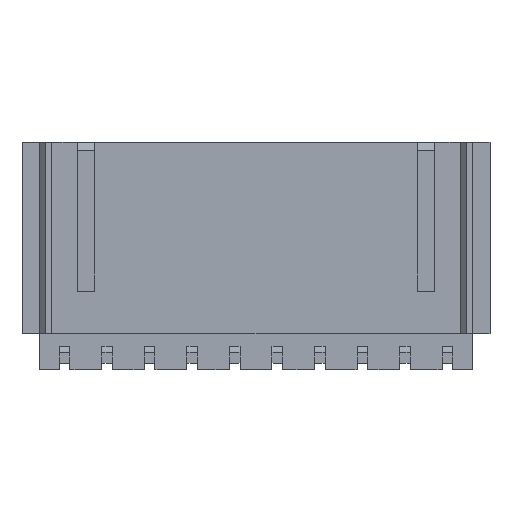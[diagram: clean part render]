
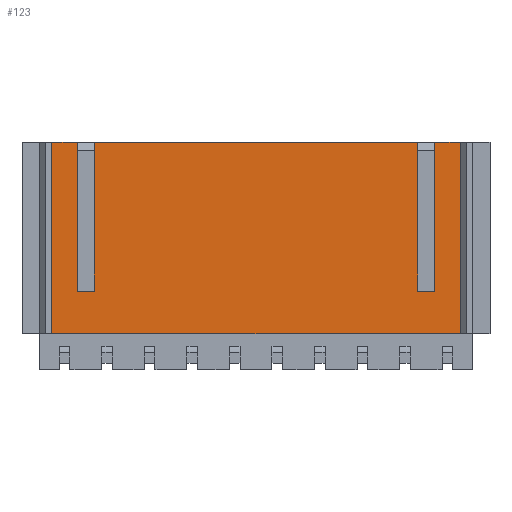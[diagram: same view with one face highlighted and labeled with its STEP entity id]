
A CAD part, front view. The second image highlights one B-rep face of the part: STEP entity #123.
In plain terms, the highlighted planar face has unit normal (0, -1, 0).
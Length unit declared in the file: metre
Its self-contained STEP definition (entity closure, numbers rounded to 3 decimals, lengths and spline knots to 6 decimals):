
#123 = ADVANCED_FACE( '', ( #453 ), #454, .T. );
#453 = FACE_OUTER_BOUND( '', #966, .T. );
#454 = PLANE( '', #967 );
#966 = EDGE_LOOP( '', ( #1918, #1919, #1920, #1921, #1922, #1923, #1924, #1925, #1926, #1927, #1928, #1929 ) );
#967 = AXIS2_PLACEMENT_3D( '', #1930, #1931, #1932 );
#1918 = ORIENTED_EDGE( '', *, *, #3721, .F. );
#1919 = ORIENTED_EDGE( '', *, *, #3722, .F. );
#1920 = ORIENTED_EDGE( '', *, *, #3423, .F. );
#1921 = ORIENTED_EDGE( '', *, *, #3430, .T. );
#1922 = ORIENTED_EDGE( '', *, *, #3723, .T. );
#1923 = ORIENTED_EDGE( '', *, *, #3724, .F. );
#1924 = ORIENTED_EDGE( '', *, *, #3725, .T. );
#1925 = ORIENTED_EDGE( '', *, *, #3726, .F. );
#1926 = ORIENTED_EDGE( '', *, *, #3727, .F. );
#1927 = ORIENTED_EDGE( '', *, *, #3728, .F. );
#1928 = ORIENTED_EDGE( '', *, *, #3585, .T. );
#1929 = ORIENTED_EDGE( '', *, *, #3729, .F. );
#1930 = CARTESIAN_POINT( '', ( -0.01397, -0.00254, -0.005715 ) );
#1931 = DIRECTION( '', ( 0., -1., 0. ) );
#1932 = DIRECTION( '', ( 0., 0., -1. ) );
#3423 = EDGE_CURVE( '', #4097, #4095, #4099, .T. );
#3430 = EDGE_CURVE( '', #4097, #4111, #4113, .T. );
#3585 = EDGE_CURVE( '', #4410, #4408, #4411, .T. );
#3721 = EDGE_CURVE( '', #4646, #4647, #4648, .T. );
#3722 = EDGE_CURVE( '', #4095, #4646, #4649, .T. );
#3723 = EDGE_CURVE( '', #4111, #4650, #4651, .T. );
#3724 = EDGE_CURVE( '', #4652, #4650, #4653, .T. );
#3725 = EDGE_CURVE( '', #4652, #4654, #4655, .T. );
#3726 = EDGE_CURVE( '', #4656, #4654, #4657, .T. );
#3727 = EDGE_CURVE( '', #4658, #4656, #4659, .T. );
#3728 = EDGE_CURVE( '', #4410, #4658, #4660, .T. );
#3729 = EDGE_CURVE( '', #4647, #4408, #4661, .T. );
#4095 = VERTEX_POINT( '', #5199 );
#4097 = VERTEX_POINT( '', #5202 );
#4099 = LINE( '', #5205, #5206 );
#4111 = VERTEX_POINT( '', #5223 );
#4113 = LINE( '', #5226, #5227 );
#4408 = VERTEX_POINT( '', #5661 );
#4410 = VERTEX_POINT( '', #5664 );
#4411 = LINE( '', #5665, #5666 );
#4646 = VERTEX_POINT( '', #6026 );
#4647 = VERTEX_POINT( '', #6027 );
#4648 = LINE( '', #6028, #6029 );
#4649 = LINE( '', #6030, #6031 );
#4650 = VERTEX_POINT( '', #6032 );
#4651 = LINE( '', #6033, #6034 );
#4652 = VERTEX_POINT( '', #6035 );
#4653 = LINE( '', #6036, #6037 );
#4654 = VERTEX_POINT( '', #6038 );
#4655 = LINE( '', #6039, #6040 );
#4656 = VERTEX_POINT( '', #6041 );
#4657 = LINE( '', #6042, #6043 );
#4658 = VERTEX_POINT( '', #6044 );
#4659 = LINE( '', #6045, #6046 );
#4660 = LINE( '', #6047, #6048 );
#4661 = LINE( '', #6049, #6050 );
#5199 = CARTESIAN_POINT( '', ( -0.012192, -0.00254, 0.005715 ) );
#5202 = CARTESIAN_POINT( '', ( -0.012192, -0.00254, -0.005715 ) );
#5205 = CARTESIAN_POINT( '', ( -0.012192, -0.00254, -0.005715 ) );
#5206 = VECTOR( '', #6919, 1. );
#5223 = CARTESIAN_POINT( '', ( 0.012192, -0.00254, -0.005715 ) );
#5226 = CARTESIAN_POINT( '', ( -0.012192, -0.00254, -0.005715 ) );
#5227 = VECTOR( '', #6926, 1. );
#5661 = CARTESIAN_POINT( '', ( -0.009652, -0.00254, -0.003175 ) );
#5664 = CARTESIAN_POINT( '', ( -0.009652, -0.00254, 0.005715 ) );
#5665 = CARTESIAN_POINT( '', ( -0.009652, -0.00254, 0.005715 ) );
#5666 = VECTOR( '', #7109, 1. );
#6026 = CARTESIAN_POINT( '', ( -0.010668, -0.00254, 0.005715 ) );
#6027 = CARTESIAN_POINT( '', ( -0.010668, -0.00254, -0.003175 ) );
#6028 = CARTESIAN_POINT( '', ( -0.010668, -0.00254, 0.005715 ) );
#6029 = VECTOR( '', #7265, 1. );
#6030 = CARTESIAN_POINT( '', ( -0.012192, -0.00254, 0.005715 ) );
#6031 = VECTOR( '', #7266, 1. );
#6032 = CARTESIAN_POINT( '', ( 0.012192, -0.00254, 0.005715 ) );
#6033 = CARTESIAN_POINT( '', ( 0.012192, -0.00254, -0.005715 ) );
#6034 = VECTOR( '', #7267, 1. );
#6035 = CARTESIAN_POINT( '', ( 0.010668, -0.00254, 0.005715 ) );
#6036 = CARTESIAN_POINT( '', ( 0.010668, -0.00254, 0.005715 ) );
#6037 = VECTOR( '', #7268, 1. );
#6038 = CARTESIAN_POINT( '', ( 0.010668, -0.00254, -0.003175 ) );
#6039 = CARTESIAN_POINT( '', ( 0.010668, -0.00254, 0.005715 ) );
#6040 = VECTOR( '', #7269, 1. );
#6041 = CARTESIAN_POINT( '', ( 0.009652, -0.00254, -0.003175 ) );
#6042 = CARTESIAN_POINT( '', ( 0.009652, -0.00254, -0.003175 ) );
#6043 = VECTOR( '', #7270, 1. );
#6044 = CARTESIAN_POINT( '', ( 0.009652, -0.00254, 0.005715 ) );
#6045 = CARTESIAN_POINT( '', ( 0.009652, -0.00254, 0.005715 ) );
#6046 = VECTOR( '', #7271, 1. );
#6047 = CARTESIAN_POINT( '', ( -0.009652, -0.00254, 0.005715 ) );
#6048 = VECTOR( '', #7272, 1. );
#6049 = CARTESIAN_POINT( '', ( -0.010668, -0.00254, -0.003175 ) );
#6050 = VECTOR( '', #7273, 1. );
#6919 = DIRECTION( '', ( 0., 0., 1. ) );
#6926 = DIRECTION( '', ( 1., 0., 0. ) );
#7109 = DIRECTION( '', ( 0., 0., -1. ) );
#7265 = DIRECTION( '', ( 0., 0., -1. ) );
#7266 = DIRECTION( '', ( 1., 0., 0. ) );
#7267 = DIRECTION( '', ( 0., 0., 1. ) );
#7268 = DIRECTION( '', ( 1., 0., 0. ) );
#7269 = DIRECTION( '', ( 0., 0., -1. ) );
#7270 = DIRECTION( '', ( 1., 0., 0. ) );
#7271 = DIRECTION( '', ( 0., 0., -1. ) );
#7272 = DIRECTION( '', ( 1., 0., 0. ) );
#7273 = DIRECTION( '', ( 1., 0., 0. ) );
